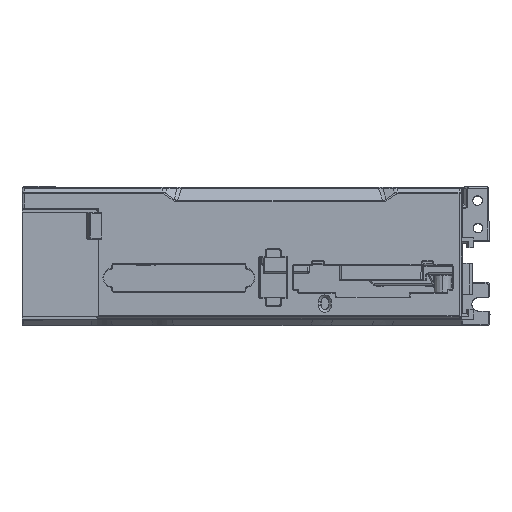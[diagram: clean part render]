
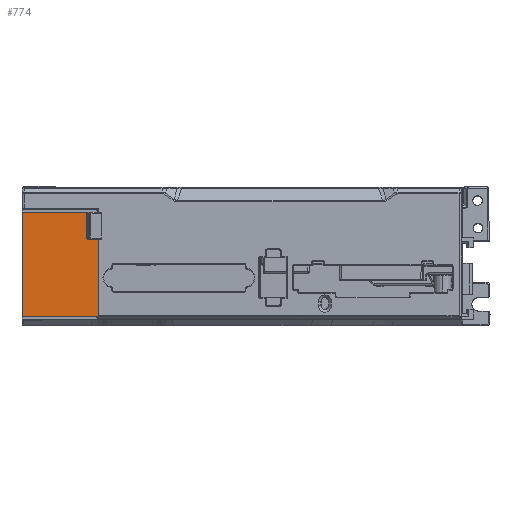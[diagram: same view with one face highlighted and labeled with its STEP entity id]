
A CAD part, top view. The second image highlights one B-rep face of the part: STEP entity #774.
In plain terms, the highlighted planar face has unit normal (0, 0, 1).
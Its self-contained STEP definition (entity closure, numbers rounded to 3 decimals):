
#148=CARTESIAN_POINT('',(-56.667,14.273,173.356));
#149=CARTESIAN_POINT('',(-56.667,14.36,173.356));
#150=CARTESIAN_POINT('',(-56.624,14.491,173.356));
#151=CARTESIAN_POINT('',(-56.508,14.636,173.356));
#152=CARTESIAN_POINT('',(-56.346,14.735,173.356));
#153=CARTESIAN_POINT('',(-56.206,14.769,173.356));
#154=CARTESIAN_POINT('',(-56.119,14.769,173.356));
#168=DIRECTION('',(1.,0.,0.));
#169=VECTOR('',#168,3.764);
#170=CARTESIAN_POINT('',(-56.119,4.786,173.356));
#171=LINE('',#170,#169);
#172=DIRECTION('',(0.,-1.,0.));
#173=VECTOR('',#172,27.982);
#174=CARTESIAN_POINT('',(-52.355,4.786,173.356));
#175=LINE('',#174,#173);
#176=DIRECTION('',(-1.,0.,0.));
#177=VECTOR('',#176,27.626);
#178=CARTESIAN_POINT('',(-52.355,-23.197,173.356));
#179=LINE('',#178,#177);
#180=DIRECTION('',(1.,0.,0.));
#181=VECTOR('',#180,23.863);
#182=CARTESIAN_POINT('',(-79.981,14.769,173.356));
#183=LINE('',#182,#181);
#184=DIRECTION('',(0.,-1.,0.));
#185=VECTOR('',#184,8.991);
#186=CARTESIAN_POINT('',(-56.667,14.273,173.356));
#187=LINE('',#186,#185);
#188=CARTESIAN_POINT('',(-56.667,5.282,173.356));
#189=CARTESIAN_POINT('',(-56.667,5.276,173.356));
#190=CARTESIAN_POINT('',(-56.667,5.271,173.356));
#191=CARTESIAN_POINT('',(-56.666,5.265,173.356));
#193=CARTESIAN_POINT('',(-56.666,5.265,173.356));
#194=CARTESIAN_POINT('',(-56.663,5.181,173.356));
#195=CARTESIAN_POINT('',(-56.618,5.053,173.356));
#196=CARTESIAN_POINT('',(-56.501,4.913,173.356));
#197=CARTESIAN_POINT('',(-56.341,4.817,173.356));
#198=CARTESIAN_POINT('',(-56.203,4.786,173.356));
#199=CARTESIAN_POINT('',(-56.119,4.786,173.356));
#237=DIRECTION('',(0.,-1.,0.));
#238=VECTOR('',#237,37.965);
#239=CARTESIAN_POINT('',(-79.981,14.769,173.356));
#240=LINE('',#239,#238);
#441=CARTESIAN_POINT('',(-52.355,-23.197,173.356));
#442=VERTEX_POINT('',#441);
#443=CARTESIAN_POINT('',(-52.355,4.786,173.356));
#444=VERTEX_POINT('',#443);
#457=CARTESIAN_POINT('',(-56.119,14.769,173.356));
#458=VERTEX_POINT('',#457);
#459=CARTESIAN_POINT('',(-79.981,14.769,173.356));
#460=VERTEX_POINT('',#459);
#463=CARTESIAN_POINT('',(-56.667,14.273,173.356));
#464=VERTEX_POINT('',#463);
#465=CARTESIAN_POINT('',(-56.667,5.282,173.356));
#466=VERTEX_POINT('',#465);
#467=CARTESIAN_POINT('',(-56.119,4.786,173.356));
#469=VERTEX_POINT('',#467);
#471=VERTEX_POINT('',#193);
#472=CARTESIAN_POINT('',(-79.981,-23.197,173.356));
#473=VERTEX_POINT('',#472);
#756=CARTESIAN_POINT('',(11.187,-44.79,173.356));
#757=DIRECTION('',(0.,0.,-1.));
#758=DIRECTION('',(1.,0.,0.));
#759=AXIS2_PLACEMENT_3D('',#756,#757,#758);
#760=PLANE('',#759);
#761=ORIENTED_EDGE('',*,*,#748,.T.);
#762=ORIENTED_EDGE('',*,*,#614,.T.);
#764=ORIENTED_EDGE('',*,*,#763,.T.);
#766=ORIENTED_EDGE('',*,*,#765,.F.);
#767=ORIENTED_EDGE('',*,*,#686,.T.);
#768=ORIENTED_EDGE('',*,*,#704,.F.);
#769=ORIENTED_EDGE('',*,*,#718,.T.);
#770=ORIENTED_EDGE('',*,*,#734,.T.);
#771=ORIENTED_EDGE('',*,*,#732,.T.);
#772=EDGE_LOOP('',(#761,#762,#764,#766,#767,#768,#769,#770,#771));
#773=FACE_OUTER_BOUND('',#772,.F.);
#774=ADVANCED_FACE('',(#773),#760,.F.);
#155=B_SPLINE_CURVE_WITH_KNOTS('',3,(#148,#149,#150,#151,#152,#153,#154),
.UNSPECIFIED.,.F.,.F.,(4,1,1,1,4),(0.,0.25,0.5,0.75,1.),
.UNSPECIFIED.);
#192=B_SPLINE_CURVE_WITH_KNOTS('',3,(#188,#189,#190,#191),.UNSPECIFIED.,.F.,.F.,
(4,4),(0.,1.),.UNSPECIFIED.);
#200=B_SPLINE_CURVE_WITH_KNOTS('',3,(#193,#194,#195,#196,#197,#198,#199),
.UNSPECIFIED.,.F.,.F.,(4,1,1,1,4),(0.,0.25,0.5,0.75,1.),
.UNSPECIFIED.);
#614=EDGE_CURVE('',#444,#442,#175,.T.);
#686=EDGE_CURVE('',#460,#458,#183,.T.);
#704=EDGE_CURVE('',#464,#458,#155,.T.);
#718=EDGE_CURVE('',#464,#466,#187,.T.);
#732=EDGE_CURVE('',#471,#469,#200,.T.);
#734=EDGE_CURVE('',#466,#471,#192,.T.);
#748=EDGE_CURVE('',#469,#444,#171,.T.);
#763=EDGE_CURVE('',#442,#473,#179,.T.);
#765=EDGE_CURVE('',#460,#473,#240,.T.);
